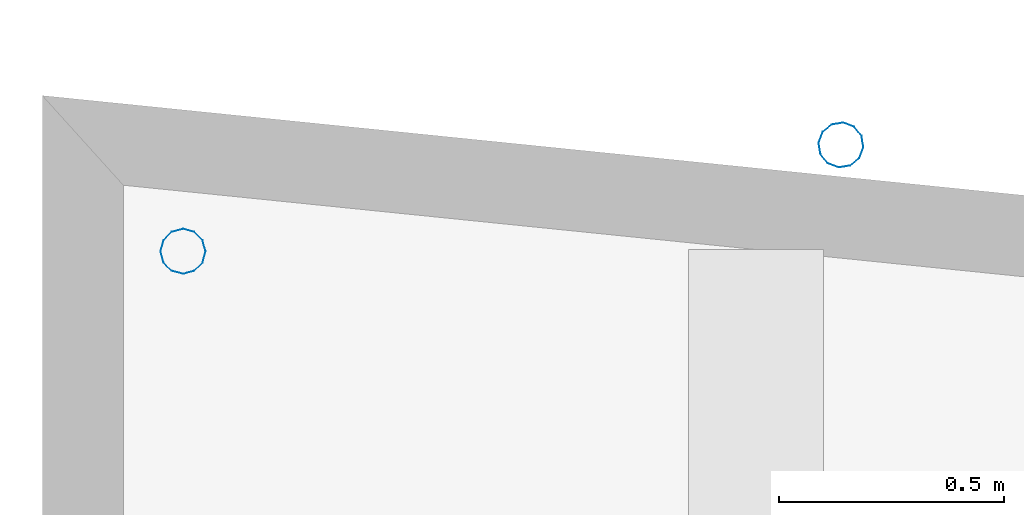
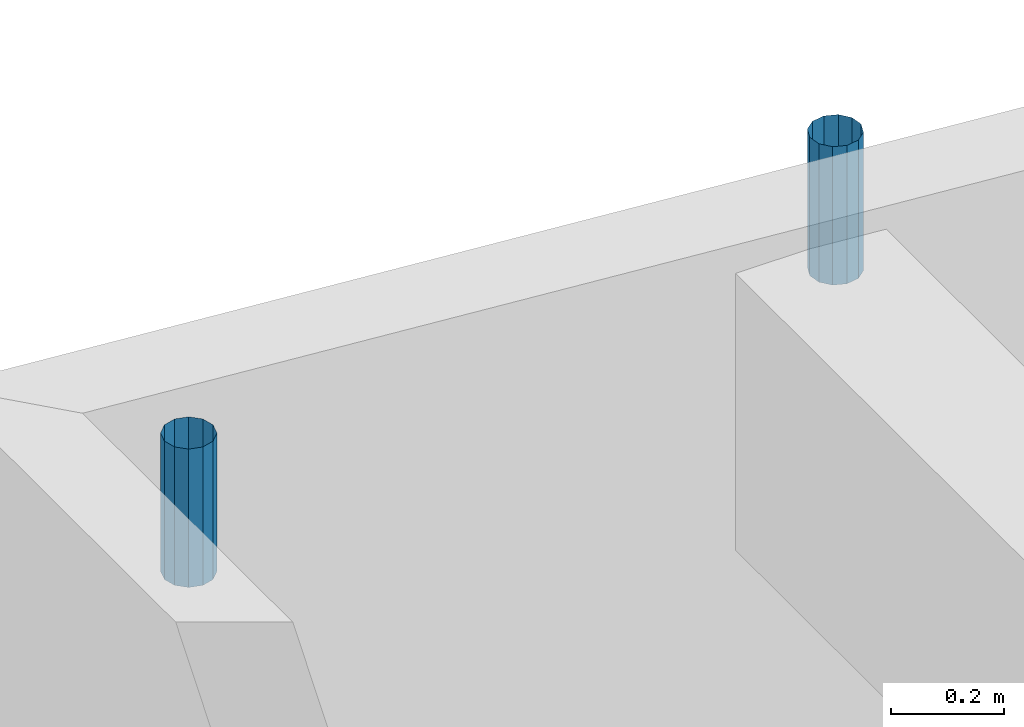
# One storey, part 31 of 41: 2 discrete accessories.
"""IFC2X3 building model written with IfcOpenShell, lengths in millimetres."""

from ifc_helpers import new_model, entity, si_unit, converted_unit, derived_unit, money_unit, direction, frame, origin_with_axes, place, context, subcontext, project, spatial, open_shell, surface_model, source, transform, mapped, type_object, element, save


model = new_model("IFC2X3")

# Units and contexts
model_context = context("Model", 3, precision=0.01, world=origin_with_axes(), true_north=direction((0.0, 1.0)))
body_context = subcontext(model_context, "Body", "Model", "MODEL_VIEW")
ifc_project = project(units=[si_unit("LENGTHUNIT", "METRE", prefix="MILLI"), si_unit("AREAUNIT", "SQUARE_METRE"), si_unit("VOLUMEUNIT", "CUBIC_METRE"), converted_unit("PLANEANGLEUNIT", "DEGREE", entity("IfcPlaneAngleMeasure", 0.0174532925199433), si_unit("PLANEANGLEUNIT", "RADIAN"), dimensions=[0, 0, 0, 0, 0, 0, 0]), money_unit("USD"), converted_unit("TIMEUNIT", "Year", entity("IfcTimeMeasure", 31557600.0), si_unit("TIMEUNIT", "SECOND"), dimensions=[0, 0, 1, 0, 0, 0, 0]), si_unit("MASSUNIT", "GRAM", prefix="KILO"), si_unit("THERMODYNAMICTEMPERATUREUNIT", "DEGREE_CELSIUS"), si_unit("LUMINOUSINTENSITYUNIT", "LUMEN"), si_unit("ENERGYUNIT", "JOULE", prefix="MEGA"), derived_unit("THERMALCONDUCTANCEUNIT", [(si_unit("POWERUNIT", "WATT"), 1), (si_unit("LENGTHUNIT", "METRE"), -1), (si_unit("THERMODYNAMICTEMPERATUREUNIT", "KELVIN"), -1)]), derived_unit("SPECIFICHEATCAPACITYUNIT", [(si_unit("ENERGYUNIT", "JOULE"), 1), (si_unit("MASSUNIT", "GRAM", prefix="KILO"), -1), (si_unit("THERMODYNAMICTEMPERATUREUNIT", "KELVIN"), -1)]), derived_unit("MASSDENSITYUNIT", [(si_unit("MASSUNIT", "GRAM", prefix="KILO"), 1), (si_unit("VOLUMEUNIT", "CUBIC_METRE"), -1)])], contexts=[model_context])

# Site, building, storey
site_placement = place(None, origin_with_axes())
site = spatial("IfcSite", under=ifc_project, at=site_placement, Name="Site", CompositionType="ELEMENT")
building_placement = place(site_placement, origin_with_axes())
building = spatial("IfcBuilding", under=site, at=building_placement, Name="Bâtiment", CompositionType="ELEMENT")
storey_placement = place(building_placement, origin_with_axes())
storey = spatial("IfcBuildingStorey", under=building, at=storey_placement, Name="sousol", CompositionType="ELEMENT", Elevation=0.0)

# Discrete accessories
discrete_accessory_type = type_object("IfcDiscreteAccessoryType", Name="Tuyau descente 27")
shared_shape = source(origin_with_axes(), body_context, "Body", "SurfaceModel", [
    surface_model("IfcShellBasedSurfaceModel", [(-50.0, 0.0, 300.0), (-50.0, 0.0, 0.0), (-43.30127018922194, -25.0, 0.0), (-43.30127018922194, -25.0, 300.0), (-43.30127018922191, 25.00000000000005, 300.0), (-43.30127018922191, 25.00000000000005, 0.0), (-25.00000000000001, -43.30127018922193, 0.0), (-25.00000000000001, -43.30127018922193, 300.0), (-24.99999999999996, 43.30127018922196, 300.0), (-24.99999999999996, 43.30127018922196, 0.0), (0.0, -50.0, 0.0), (0.0, -50.0, 300.0), (0.0, 50.0, 300.0), (0.0, 50.0, 0.0), (24.99999999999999, -43.30127018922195, 0.0), (24.99999999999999, -43.30127018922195, 300.0), (25.00000000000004, 43.30127018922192, 300.0), (25.00000000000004, 43.30127018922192, 0.0), (43.30127018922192, -25.00000000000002, 0.0), (43.30127018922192, -25.00000000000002, 300.0), (43.30127018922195, 24.99999999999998, 300.0), (43.30127018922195, 24.99999999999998, 0.0), (50.0, 0.0, 0.0), (50.0, 0.0, 300.0)], [open_shell([[[0, 1, 2, 3]], [[4, 5, 1, 0]], [[3, 2, 6, 7]], [[8, 9, 5, 4]], [[7, 6, 10, 11]], [[12, 13, 9, 8]], [[11, 10, 14, 15]], [[16, 17, 13, 12]], [[15, 14, 18, 19]], [[20, 21, 17, 16]], [[19, 18, 22, 23]], [[23, 22, 21, 20]]])]),
])
for number, where, z_axis, x_axis, name in (
    (1, (2216947.023107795, -604189.3675925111, 2700.0), (0.0, 0.0, 1.0), (-1.0, 0.0, 0.0), "Obj.-318"),
    (2, (2218409.139648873, -603953.0508855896, 2700.0), (0.0, 0.0, 1.0), (-0.9948759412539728, 0.1011032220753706, 0.0), "Obj.-318"),
):
    element("IfcDiscreteAccessory", number, at=place(storey_placement, frame(where, z_axis=z_axis, x_axis=x_axis)), inside=storey, type_object=discrete_accessory_type, Name=name, context=body_context, shape_type="MappedRepresentation", body=[
        mapped(shared_shape, transform((0.0, 0.0, 0.0))),
    ])

save(model, "model.ifc")
